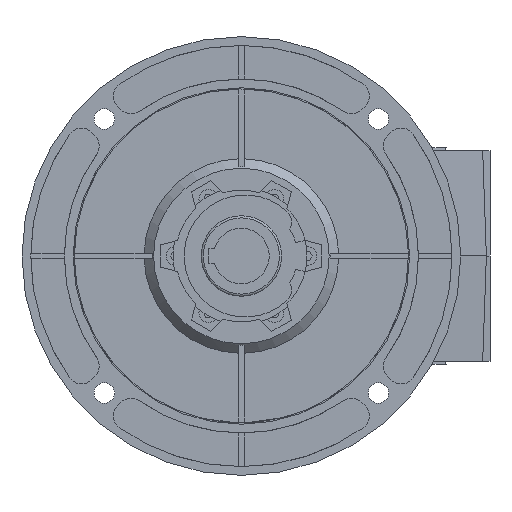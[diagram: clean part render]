
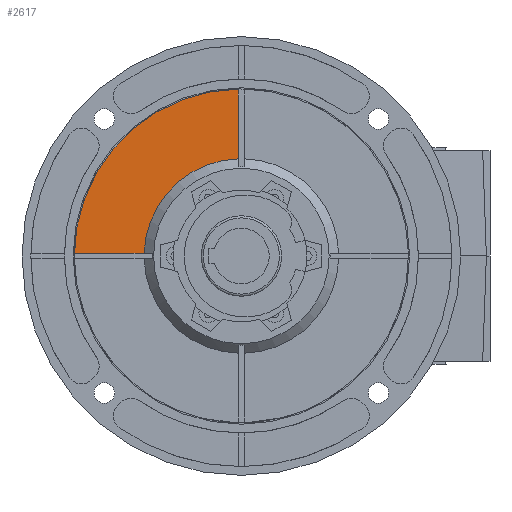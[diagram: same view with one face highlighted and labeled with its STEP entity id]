
A CAD part, left-side view. The second image highlights one B-rep face of the part: STEP entity #2617.
In plain terms, the highlighted planar face has unit normal (-1, 0, 0).
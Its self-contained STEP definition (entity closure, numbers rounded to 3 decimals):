
#2617 = ADVANCED_FACE( '', ( #6017 ), #6018, .F. );
#6017 = FACE_OUTER_BOUND( '', #11228, .T. );
#6018 = PLANE( '', #11229 );
#11228 = EDGE_LOOP( '', ( #19291, #19292, #19293, #19294 ) );
#11229 = AXIS2_PLACEMENT_3D( '', #19295, #19296, #19297 );
#19291 = ORIENTED_EDGE( '', *, *, #27065, .T. );
#19292 = ORIENTED_EDGE( '', *, *, #25612, .F. );
#19293 = ORIENTED_EDGE( '', *, *, #27066, .F. );
#19294 = ORIENTED_EDGE( '', *, *, #26824, .T. );
#19295 = CARTESIAN_POINT( '', ( -260., 109., 0. ) );
#19296 = DIRECTION( '', ( 1., 0., 0. ) );
#19297 = DIRECTION( '', ( 0., 0., 1. ) );
#25612 = EDGE_CURVE( '', #30716, #30718, #30719, .F. );
#26824 = EDGE_CURVE( '', #32530, #32541, #32543, .F. );
#27065 = EDGE_CURVE( '', #32541, #30718, #32870, .T. );
#27066 = EDGE_CURVE( '', #32530, #30716, #32871, .F. );
#30716 = VERTEX_POINT( '', #38353 );
#30718 = VERTEX_POINT( '', #38358 );
#30719 = CIRCLE( '', #38359, 66.5 );
#32530 = VERTEX_POINT( '', #41494 );
#32541 = VERTEX_POINT( '', #41507 );
#32543 = CIRCLE( '', #41510, 114.25 );
#32870 = LINE( '', #41988, #41989 );
#32871 = LINE( '', #41990, #41991 );
#38353 = CARTESIAN_POINT( '', ( -260., 44.5, 66.47 ) );
#38358 = CARTESIAN_POINT( '', ( -260., 108.97, 2. ) );
#38359 = AXIS2_PLACEMENT_3D( '', #45912, #45913, #45914 );
#41494 = CARTESIAN_POINT( '', ( -260., 44.5, 114.232 ) );
#41507 = CARTESIAN_POINT( '', ( -260., 156.732, 2. ) );
#41510 = AXIS2_PLACEMENT_3D( '', #47269, #47270, #47271 );
#41988 = CARTESIAN_POINT( '', ( -260., 109., 2. ) );
#41989 = VECTOR( '', #47516, 1000. );
#41990 = CARTESIAN_POINT( '', ( -260., 44.5, 61. ) );
#41991 = VECTOR( '', #47517, 1000. );
#45912 = CARTESIAN_POINT( '', ( -260., 42.5, 0. ) );
#45913 = DIRECTION( '', ( 1., 0., 0. ) );
#45914 = DIRECTION( '', ( 0., 1., 0. ) );
#47269 = CARTESIAN_POINT( '', ( -260., 42.5, 0. ) );
#47270 = DIRECTION( '', ( 1., 0., 0. ) );
#47271 = DIRECTION( '', ( 0., 1., 0. ) );
#47516 = DIRECTION( '', ( 0., -1., 0. ) );
#47517 = DIRECTION( '', ( 0., 0., 1. ) );
